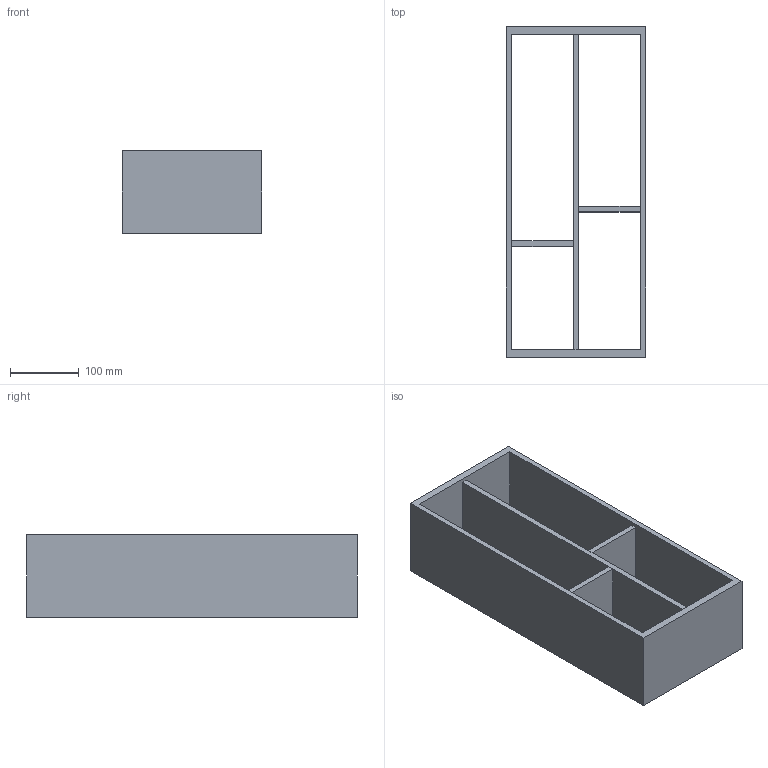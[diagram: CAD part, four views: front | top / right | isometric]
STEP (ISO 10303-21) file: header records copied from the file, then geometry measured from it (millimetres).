
FILE_DESCRIPTION (( 'STEP AP214' ), '1' );
FILE_NAME ('Vario Multi H120 NL500_B300_19 mm_Alu-Buche.step', '2010-10-08T09:47:29', ( 'grass' ), ( '' ), 'SwSTEP 2.0', 'SolidWorks 2010', '' );
FILE_SCHEMA (( 'AUTOMOTIVE_DESIGN' ));
Length unit declared in the file: millimetre
Products named in the file (1): Vario Multi H120 NL500_B300_19 mm_Alu-Buche
Bounding box: 202 x 479 x 120 mm (x, y, z)
Volume: 1989760.7 mm3; surface area: 490721.3 mm2
Topology: 1 solids, 1 shells, 22 faces, 60 edges, 40 vertices
Faces by surface type: plane 22
Entity records: 734 total; most frequent: CARTESIAN_POINT 123, ORIENTED_EDGE 120, DIRECTION 106, VECTOR 60, LINE 60, EDGE_CURVE 60, VERTEX_POINT 40, EDGE_LOOP 30
